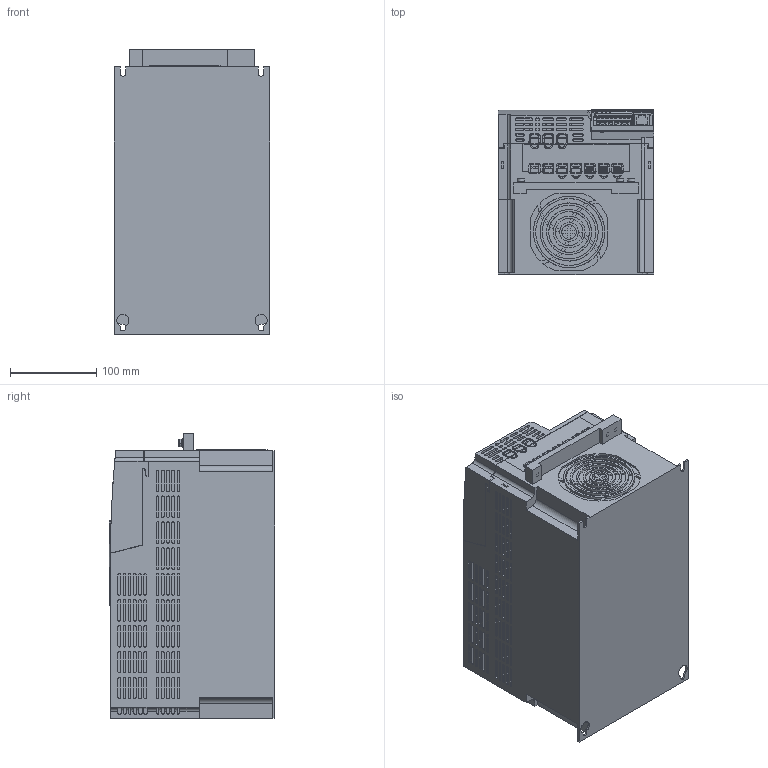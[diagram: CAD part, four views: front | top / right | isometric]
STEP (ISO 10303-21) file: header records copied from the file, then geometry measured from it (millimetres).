
FILE_DESCRIPTION(('STEP AP203'),'1');
FILE_NAME('vfnc3c_s5_001.stp','2020-11-06T07:17:20',(' '),(' '),'Spatial InterOp 3D',' ',' ');
FILE_SCHEMA(('CONFIG_CONTROL_DESIGN'));
Length unit declared in the file: metre
Products named in the file (8): vfnc3c_s5_001; VFNC3C_DRIVE_S5; VFNC3C_CONTROL_DOOR; VFNC3C_IT_SCREW_S5; VFNC3C_TERM_SCREW_S5; VFNC3C_WIRING_TRAP_S5; VFNC3C_TERMINAL_COVER_S5; VFNC3C_GROUNDING_SCREW_S5
Assembly tree (16 placements, depth 2):
  vfnc3c_s5_001
    VFNC3C_DRIVE_S5
    VFNC3C_CONTROL_DOOR
    VFNC3C_IT_SCREW_S5
    VFNC3C_TERM_SCREW_S5  x8
    VFNC3C_WIRING_TRAP_S5
    VFNC3C_TERMINAL_COVER_S5
    VFNC3C_GROUNDING_SCREW_S5  x3
Bounding box: 180 x 191.4 x 330 mm (x, y, z)
Volume: 9611994.3 mm3; surface area: 452278.3 mm2
Topology: 16 solids, 16 shells, 3373 faces, 9110 edges, 6026 vertices
Faces by surface type: plane 2297, cylinder 956, torus 35, bspline 30, cone 27, extrusion 22, sphere 6
Entity records: 104189 total; most frequent: CARTESIAN_POINT 20451, ORIENTED_EDGE 17476, DIRECTION 17040, EDGE_CURVE 8738, VECTOR 6594, LINE 6572, VERTEX_POINT 5799, AXIS2_PLACEMENT_3D 5223
